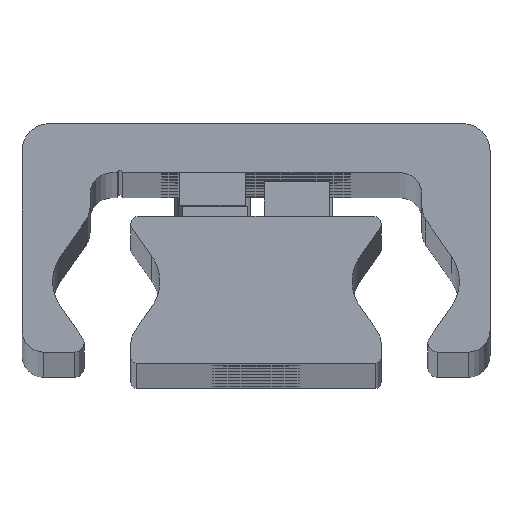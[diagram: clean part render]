
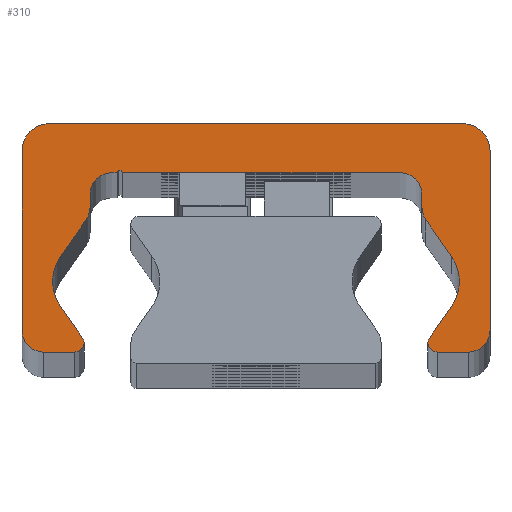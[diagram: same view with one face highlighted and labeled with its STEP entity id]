
A CAD part, top view. The second image highlights one B-rep face of the part: STEP entity #310.
In plain terms, the highlighted planar face has unit normal (0, 0, 1).
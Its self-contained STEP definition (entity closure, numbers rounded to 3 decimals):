
#310=ADVANCED_FACE('',(#876),#877,.T.);
#876=FACE_OUTER_BOUND('',#1443,.T.);
#877=PLANE('',#1444);
#1443=EDGE_LOOP('',(#3346,#3347,#3348,#3349,#3350,#3351,#3352,#3353,#3354,#3355,#3356,#3357,#3358,#3359,#3360,#3361,#3362,#3363,#3364,#3365,#3366,#3367,#3368,#3369,#3370,#3371,#3372,#3373,#3374,#3375));
#1444=AXIS2_PLACEMENT_3D('',#3376,#3377,#3378);
#3346=ORIENTED_EDGE('',*,*,#3749,.F.);
#3347=ORIENTED_EDGE('',*,*,#4022,.F.);
#3348=ORIENTED_EDGE('',*,*,#3735,.F.);
#3349=ORIENTED_EDGE('',*,*,#4021,.F.);
#3350=ORIENTED_EDGE('',*,*,#4017,.F.);
#3351=ORIENTED_EDGE('',*,*,#4014,.F.);
#3352=ORIENTED_EDGE('',*,*,#4011,.F.);
#3353=ORIENTED_EDGE('',*,*,#4008,.F.);
#3354=ORIENTED_EDGE('',*,*,#4005,.F.);
#3355=ORIENTED_EDGE('',*,*,#4002,.F.);
#3356=ORIENTED_EDGE('',*,*,#3999,.F.);
#3357=ORIENTED_EDGE('',*,*,#3996,.F.);
#3358=ORIENTED_EDGE('',*,*,#3993,.F.);
#3359=ORIENTED_EDGE('',*,*,#3990,.F.);
#3360=ORIENTED_EDGE('',*,*,#3741,.F.);
#3361=ORIENTED_EDGE('',*,*,#3988,.F.);
#3362=ORIENTED_EDGE('',*,*,#3743,.F.);
#3363=ORIENTED_EDGE('',*,*,#3987,.F.);
#3364=ORIENTED_EDGE('',*,*,#3983,.F.);
#3365=ORIENTED_EDGE('',*,*,#3980,.F.);
#3366=ORIENTED_EDGE('',*,*,#3977,.F.);
#3367=ORIENTED_EDGE('',*,*,#3974,.F.);
#3368=ORIENTED_EDGE('',*,*,#3971,.F.);
#3369=ORIENTED_EDGE('',*,*,#3968,.F.);
#3370=ORIENTED_EDGE('',*,*,#3965,.F.);
#3371=ORIENTED_EDGE('',*,*,#3962,.F.);
#3372=ORIENTED_EDGE('',*,*,#3959,.F.);
#3373=ORIENTED_EDGE('',*,*,#3956,.F.);
#3374=ORIENTED_EDGE('',*,*,#3953,.F.);
#3375=ORIENTED_EDGE('',*,*,#3950,.F.);
#3376=CARTESIAN_POINT('',(-0.023,14.187,1330.0));
#3377=DIRECTION('',(0.0,0.0,1.0));
#3378=DIRECTION('',(1.0,0.0,0.0));
#3735=EDGE_CURVE('',#4538,#4541,#4542,.T.);
#3741=EDGE_CURVE('',#4551,#4547,#4553,.T.);
#3743=EDGE_CURVE('',#4554,#4557,#4558,.T.);
#3749=EDGE_CURVE('',#4567,#4563,#4569,.T.);
#3950=EDGE_CURVE('',#4563,#4892,#4893,.T.);
#3953=EDGE_CURVE('',#4892,#4897,#4898,.T.);
#3956=EDGE_CURVE('',#4897,#4902,#4903,.T.);
#3959=EDGE_CURVE('',#4902,#4907,#4908,.T.);
#3962=EDGE_CURVE('',#4907,#4912,#4913,.T.);
#3965=EDGE_CURVE('',#4912,#4917,#4918,.T.);
#3968=EDGE_CURVE('',#4917,#4922,#4923,.T.);
#3971=EDGE_CURVE('',#4922,#4927,#4928,.T.);
#3974=EDGE_CURVE('',#4927,#4932,#4933,.T.);
#3977=EDGE_CURVE('',#4932,#4937,#4938,.T.);
#3980=EDGE_CURVE('',#4937,#4942,#4943,.T.);
#3983=EDGE_CURVE('',#4942,#4947,#4948,.T.);
#3987=EDGE_CURVE('',#4947,#4554,#4953,.T.);
#3988=EDGE_CURVE('',#4557,#4551,#4954,.T.);
#3990=EDGE_CURVE('',#4547,#4956,#4957,.T.);
#3993=EDGE_CURVE('',#4956,#4961,#4962,.T.);
#3996=EDGE_CURVE('',#4961,#4966,#4967,.T.);
#3999=EDGE_CURVE('',#4966,#4971,#4972,.T.);
#4002=EDGE_CURVE('',#4971,#4976,#4977,.T.);
#4005=EDGE_CURVE('',#4976,#4981,#4982,.T.);
#4008=EDGE_CURVE('',#4981,#4986,#4987,.T.);
#4011=EDGE_CURVE('',#4986,#4991,#4992,.T.);
#4014=EDGE_CURVE('',#4991,#4996,#4997,.T.);
#4017=EDGE_CURVE('',#4996,#5001,#5002,.T.);
#4021=EDGE_CURVE('',#5001,#4538,#5007,.T.);
#4022=EDGE_CURVE('',#4541,#4567,#5008,.T.);
#4538=VERTEX_POINT('',#5686);
#4541=VERTEX_POINT('',#5690);
#4542=CIRCLE('',#5691,0.85);
#4547=VERTEX_POINT('',#5697);
#4551=VERTEX_POINT('',#5702);
#4553=CIRCLE('',#5705,0.85);
#4554=VERTEX_POINT('',#5706);
#4557=VERTEX_POINT('',#5710);
#4558=CIRCLE('',#5711,4.);
#4563=VERTEX_POINT('',#5717);
#4567=VERTEX_POINT('',#5722);
#4569=CIRCLE('',#5725,4.);
#4892=VERTEX_POINT('',#6142);
#4893=CIRCLE('',#6143,4.);
#4897=VERTEX_POINT('',#6148);
#4898=LINE('',#6149,#6150);
#4902=VERTEX_POINT('',#6156);
#4903=CIRCLE('',#6157,2.);
#4907=VERTEX_POINT('',#6162);
#4908=LINE('',#6163,#6164);
#4912=VERTEX_POINT('',#6170);
#4913=CIRCLE('',#6171,2.0);
#4917=VERTEX_POINT('',#6176);
#4918=LINE('',#6177,#6178);
#4922=VERTEX_POINT('',#6184);
#4923=CIRCLE('',#6185,0.25);
#4927=VERTEX_POINT('',#6190);
#4928=LINE('',#6191,#6192);
#4932=VERTEX_POINT('',#6198);
#4933=CIRCLE('',#6199,2.0);
#4937=VERTEX_POINT('',#6204);
#4938=LINE('',#6205,#6206);
#4942=VERTEX_POINT('',#6212);
#4943=CIRCLE('',#6213,2.0);
#4947=VERTEX_POINT('',#6218);
#4948=LINE('',#6219,#6220);
#4953=CIRCLE('',#6227,4.);
#4954=LINE('',#6228,#6229);
#4956=VERTEX_POINT('',#6232);
#4957=CIRCLE('',#6233,0.85);
#4961=VERTEX_POINT('',#6238);
#4962=LINE('',#6239,#6240);
#4966=VERTEX_POINT('',#6246);
#4967=CIRCLE('',#6247,2.);
#4971=VERTEX_POINT('',#6252);
#4972=LINE('',#6253,#6254);
#4976=VERTEX_POINT('',#6260);
#4977=CIRCLE('',#6261,2.5);
#4981=VERTEX_POINT('',#6266);
#4982=LINE('',#6267,#6268);
#4986=VERTEX_POINT('',#6274);
#4987=CIRCLE('',#6275,2.5);
#4991=VERTEX_POINT('',#6280);
#4992=LINE('',#6281,#6282);
#4996=VERTEX_POINT('',#6288);
#4997=CIRCLE('',#6289,2.);
#5001=VERTEX_POINT('',#6294);
#5002=LINE('',#6295,#6296);
#5007=CIRCLE('',#6303,0.85);
#5008=LINE('',#6304,#6305);
#5686=CARTESIAN_POINT('',(15.8,1.859,1330.0));
#5690=CARTESIAN_POINT('',(15.922,2.298,1330.0));
#5691=AXIS2_PLACEMENT_3D('',#6951,#6952,#6953);
#5697=CARTESIAN_POINT('',(-15.8,1.859,1330.0));
#5702=CARTESIAN_POINT('',(-15.922,2.298,1330.0));
#5705=AXIS2_PLACEMENT_3D('',#6963,#6964,#6965);
#5706=CARTESIAN_POINT('',(-18.688,7.509,1330.0));
#5710=CARTESIAN_POINT('',(-17.964,5.214,1330.0));
#5711=AXIS2_PLACEMENT_3D('',#6967,#6968,#6969);
#5717=CARTESIAN_POINT('',(18.688,7.509,1330.0));
#5722=CARTESIAN_POINT('',(17.964,5.214,1330.0));
#5725=AXIS2_PLACEMENT_3D('',#6979,#6980,#6981);
#6142=CARTESIAN_POINT('',(17.964,9.803,1330.0));
#6143=AXIS2_PLACEMENT_3D('',#7394,#7395,#7396);
#6148=CARTESIAN_POINT('',(15.612,13.163,1330.0));
#6149=CARTESIAN_POINT('',(15.612,13.163,1330.0));
#6150=VECTOR('',#7401,1.0);
#6156=CARTESIAN_POINT('',(15.25,14.31,1330.0));
#6157=AXIS2_PLACEMENT_3D('',#7404,#7405,#7406);
#6162=CARTESIAN_POINT('',(15.25,15.509,1330.0));
#6163=CARTESIAN_POINT('',(15.25,15.509,1330.0));
#6164=VECTOR('',#7411,1.0);
#6170=CARTESIAN_POINT('',(13.25,17.509,1330.0));
#6171=AXIS2_PLACEMENT_3D('',#7414,#7415,#7416);
#6176=CARTESIAN_POINT('',(-12.25,17.509,1330.0));
#6177=CARTESIAN_POINT('',(-12.25,17.509,1330.0));
#6178=VECTOR('',#7421,1.0);
#6184=CARTESIAN_POINT('',(-12.75,17.509,1330.0));
#6185=AXIS2_PLACEMENT_3D('',#7424,#7425,#7426);
#6190=CARTESIAN_POINT('',(-13.25,17.509,1330.0));
#6191=CARTESIAN_POINT('',(-13.25,17.509,1330.0));
#6192=VECTOR('',#7431,1.0);
#6198=CARTESIAN_POINT('',(-15.25,15.509,1330.0));
#6199=AXIS2_PLACEMENT_3D('',#7434,#7435,#7436);
#6204=CARTESIAN_POINT('',(-15.25,14.31,1330.0));
#6205=CARTESIAN_POINT('',(-15.25,14.31,1330.0));
#6206=VECTOR('',#7441,1.0);
#6212=CARTESIAN_POINT('',(-15.612,13.163,1330.0));
#6213=AXIS2_PLACEMENT_3D('',#7444,#7445,#7446);
#6218=CARTESIAN_POINT('',(-17.964,9.803,1330.0));
#6219=CARTESIAN_POINT('',(-17.964,9.803,1330.0));
#6220=VECTOR('',#7451,1.0);
#6227=AXIS2_PLACEMENT_3D('',#7457,#7458,#7459);
#6228=CARTESIAN_POINT('',(-15.922,2.298,1330.0));
#6229=VECTOR('',#7460,1.0);
#6232=CARTESIAN_POINT('',(-16.65,1.009,1330.0));
#6233=AXIS2_PLACEMENT_3D('',#7462,#7463,#7464);
#6238=CARTESIAN_POINT('',(-19.5,1.009,1330.0));
#6239=CARTESIAN_POINT('',(-19.5,1.009,1330.0));
#6240=VECTOR('',#7469,1.0);
#6246=CARTESIAN_POINT('',(-21.5,3.009,1330.0));
#6247=AXIS2_PLACEMENT_3D('',#7472,#7473,#7474);
#6252=CARTESIAN_POINT('',(-21.5,19.509,1330.0));
#6253=CARTESIAN_POINT('',(-21.5,19.509,1330.0));
#6254=VECTOR('',#7479,1.0);
#6260=CARTESIAN_POINT('',(-19.0,22.009,1330.0));
#6261=AXIS2_PLACEMENT_3D('',#7482,#7483,#7484);
#6266=CARTESIAN_POINT('',(19.0,22.009,1330.0));
#6267=CARTESIAN_POINT('',(19.0,22.009,1330.0));
#6268=VECTOR('',#7489,1.0);
#6274=CARTESIAN_POINT('',(21.5,19.509,1330.0));
#6275=AXIS2_PLACEMENT_3D('',#7492,#7493,#7494);
#6280=CARTESIAN_POINT('',(21.5,3.009,1330.0));
#6281=CARTESIAN_POINT('',(21.5,3.009,1330.0));
#6282=VECTOR('',#7499,1.0);
#6288=CARTESIAN_POINT('',(19.5,1.009,1330.0));
#6289=AXIS2_PLACEMENT_3D('',#7502,#7503,#7504);
#6294=CARTESIAN_POINT('',(16.65,1.009,1330.0));
#6295=CARTESIAN_POINT('',(16.65,1.009,1330.0));
#6296=VECTOR('',#7509,1.0);
#6303=AXIS2_PLACEMENT_3D('',#7515,#7516,#7517);
#6304=CARTESIAN_POINT('',(17.964,5.214,1330.0));
#6305=VECTOR('',#7518,1.0);
#6951=CARTESIAN_POINT('',(16.65,1.859,1330.0));
#6952=DIRECTION('',(0.0,0.0,-1.0));
#6953=DIRECTION('',(1.0,0.0,0.0));
#6963=CARTESIAN_POINT('',(-16.65,1.859,1330.0));
#6964=DIRECTION('',(0.0,0.0,-1.0));
#6965=DIRECTION('',(1.0,0.0,0.0));
#6967=CARTESIAN_POINT('',(-14.688,7.509,1330.0));
#6968=DIRECTION('',(0.0,0.0,1.0));
#6969=DIRECTION('',(1.0,0.0,0.0));
#6979=CARTESIAN_POINT('',(14.688,7.509,1330.0));
#6980=DIRECTION('',(0.0,0.0,1.0));
#6981=DIRECTION('',(1.0,0.0,0.0));
#7394=CARTESIAN_POINT('',(14.688,7.509,1330.0));
#7395=DIRECTION('',(0.0,0.0,1.0));
#7396=DIRECTION('',(1.0,0.0,0.0));
#7401=DIRECTION('',(-0.574,0.819,0.0));
#7404=CARTESIAN_POINT('',(17.25,14.31,1330.0));
#7405=DIRECTION('',(0.0,0.0,-1.0));
#7406=DIRECTION('',(1.0,0.0,0.0));
#7411=DIRECTION('',(0.0,1.0,0.0));
#7414=CARTESIAN_POINT('',(13.25,15.509,1330.0));
#7415=DIRECTION('',(0.0,0.0,1.0));
#7416=DIRECTION('',(1.0,0.0,0.0));
#7421=DIRECTION('',(-1.0,-0.0,-0.0));
#7424=CARTESIAN_POINT('',(-12.5,17.509,1330.0));
#7425=DIRECTION('',(0.0,0.0,1.0));
#7426=DIRECTION('',(1.0,0.0,0.0));
#7431=DIRECTION('',(-1.0,-0.0,-0.0));
#7434=CARTESIAN_POINT('',(-13.25,15.509,1330.0));
#7435=DIRECTION('',(0.0,0.0,1.0));
#7436=DIRECTION('',(1.0,0.0,0.0));
#7441=DIRECTION('',(-0.0,-1.0,-0.0));
#7444=CARTESIAN_POINT('',(-17.25,14.31,1330.0));
#7445=DIRECTION('',(0.0,0.0,-1.0));
#7446=DIRECTION('',(1.0,0.0,0.0));
#7451=DIRECTION('',(-0.574,-0.819,-0.0));
#7457=CARTESIAN_POINT('',(-14.688,7.509,1330.0));
#7458=DIRECTION('',(0.0,0.0,1.0));
#7459=DIRECTION('',(1.0,0.0,0.0));
#7460=DIRECTION('',(0.574,-0.819,0.0));
#7462=CARTESIAN_POINT('',(-16.65,1.859,1330.0));
#7463=DIRECTION('',(0.0,0.0,-1.0));
#7464=DIRECTION('',(1.0,0.0,0.0));
#7469=DIRECTION('',(-1.0,-0.0,-0.0));
#7472=CARTESIAN_POINT('',(-19.5,3.009,1330.0));
#7473=DIRECTION('',(0.0,0.0,-1.0));
#7474=DIRECTION('',(1.0,0.0,0.0));
#7479=DIRECTION('',(0.0,1.0,0.0));
#7482=CARTESIAN_POINT('',(-19.0,19.509,1330.0));
#7483=DIRECTION('',(0.0,0.0,-1.0));
#7484=DIRECTION('',(1.0,0.0,0.0));
#7489=DIRECTION('',(1.0,0.0,0.0));
#7492=CARTESIAN_POINT('',(19.0,19.509,1330.0));
#7493=DIRECTION('',(0.0,0.0,-1.0));
#7494=DIRECTION('',(1.0,0.0,0.0));
#7499=DIRECTION('',(-0.0,-1.0,-0.0));
#7502=CARTESIAN_POINT('',(19.5,3.009,1330.0));
#7503=DIRECTION('',(0.0,0.0,-1.0));
#7504=DIRECTION('',(1.0,0.0,0.0));
#7509=DIRECTION('',(-1.0,-0.0,-0.0));
#7515=CARTESIAN_POINT('',(16.65,1.859,1330.0));
#7516=DIRECTION('',(0.0,0.0,-1.0));
#7517=DIRECTION('',(1.0,0.0,0.0));
#7518=DIRECTION('',(0.574,0.819,0.0));
